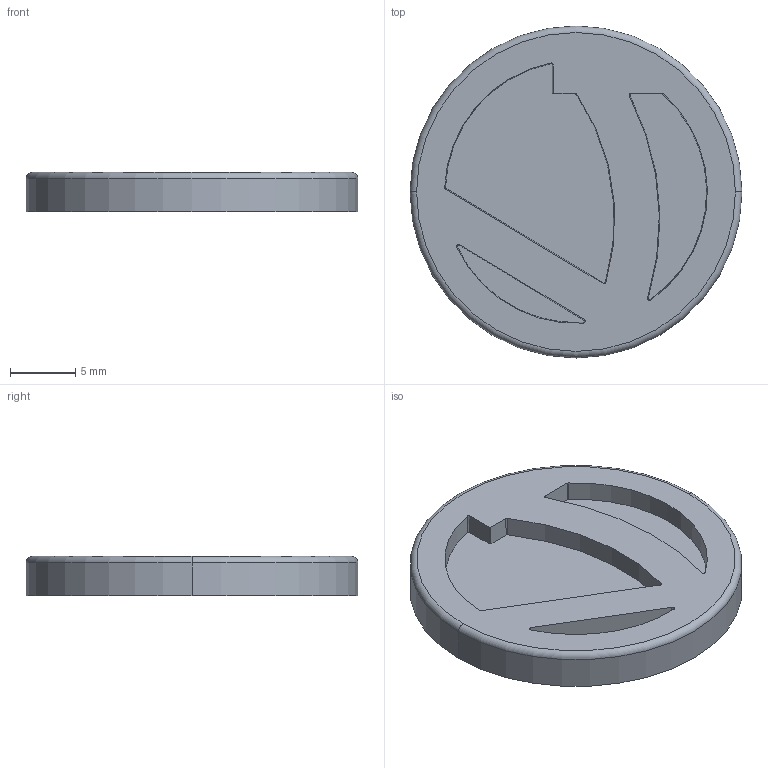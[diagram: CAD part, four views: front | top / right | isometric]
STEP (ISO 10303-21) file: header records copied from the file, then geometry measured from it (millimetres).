
FILE_DESCRIPTION((''),'2;1');
FILE_NAME('RANK8','2015-05-15T',('Daniel'),(''),'PRO/ENGINEER BY PARAMETRIC TECHNOLOGY CORPORATION, 2014000','PRO/ENGINEER BY PARAMETRIC TECHNOLOGY CORPORATION, 2014000','');
FILE_SCHEMA(('CONFIG_CONTROL_DESIGN'));
Length unit declared in the file: millimetre
Products named in the file (1): RANK8
Bounding box: 25.4 x 25.4 x 3 mm (x, y, z)
Volume: 1220.2 mm3; surface area: 1391.9 mm2
Topology: 1 solids, 1 shells, 29 faces, 70 edges, 46 vertices
Faces by surface type: cone 15, plane 10, torus 2, cylinder 2
Entity records: 904 total; most frequent: DIRECTION 166, CARTESIAN_POINT 145, ORIENTED_EDGE 140, EDGE_CURVE 70, AXIS2_PLACEMENT_3D 67, VERTEX_POINT 46, CIRCLE 38, VECTOR 32
